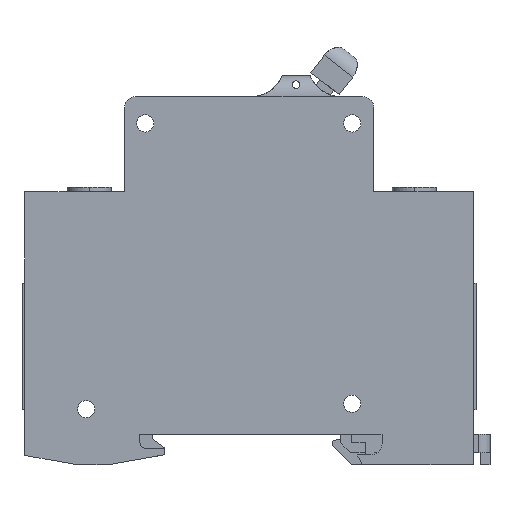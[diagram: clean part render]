
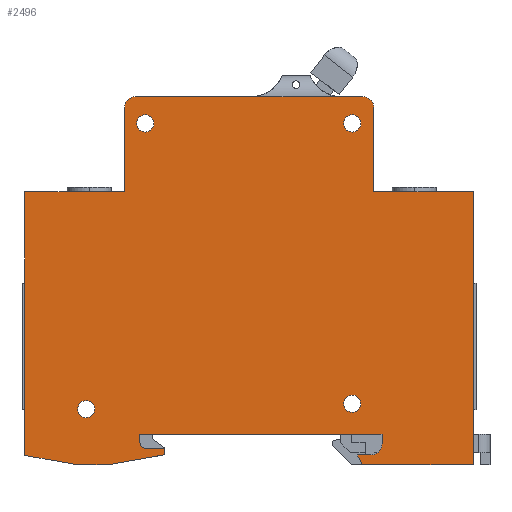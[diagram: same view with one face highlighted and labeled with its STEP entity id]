
A CAD part, left-side view. The second image highlights one B-rep face of the part: STEP entity #2496.
In plain terms, the highlighted planar face has unit normal (-1, 0, 0).
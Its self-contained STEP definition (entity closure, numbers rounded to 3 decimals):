
#13=DIRECTION('',(0.,1.,0.));
#14=VECTOR('',#13,43.7);
#15=CARTESIAN_POINT('',(-8.925,-24.,-27.75));
#16=LINE('',#15,#14);
#17=DIRECTION('',(0.,0.,-1.));
#18=VECTOR('',#17,1.5);
#19=CARTESIAN_POINT('',(-8.925,19.7,-27.75));
#20=LINE('',#19,#18);
#21=CARTESIAN_POINT('',(-8.925,18.7,-29.25));
#22=DIRECTION('',(-1.,0.,0.));
#23=DIRECTION('',(0.,1.,0.));
#24=AXIS2_PLACEMENT_3D('',#21,#22,#23);
#26=DIRECTION('',(0.,-1.,0.));
#27=VECTOR('',#26,3.5);
#28=CARTESIAN_POINT('',(-8.925,18.7,-30.25));
#29=LINE('',#28,#27);
#30=DIRECTION('',(0.,0.985,-0.174));
#31=VECTOR('',#30,10.56);
#32=CARTESIAN_POINT('',(-8.925,15.2,-31.416));
#33=LINE('',#32,#31);
#34=DIRECTION('',(0.,0.985,0.174));
#35=VECTOR('',#34,9.85);
#36=CARTESIAN_POINT('',(-8.925,30.8,-33.25));
#37=LINE('',#36,#35);
#38=CARTESIAN_POINT('',(-8.925,20.5,31.25));
#39=DIRECTION('',(1.,0.,0.));
#40=DIRECTION('',(0.,1.,0.));
#41=AXIS2_PLACEMENT_3D('',#38,#39,#40);
#43=CARTESIAN_POINT('',(-8.925,-20.5,31.25));
#44=DIRECTION('',(1.,0.,0.));
#45=DIRECTION('',(0.,0.,1.));
#46=AXIS2_PLACEMENT_3D('',#43,#44,#45);
#48=DIRECTION('',(0.,0.447,0.894));
#49=VECTOR('',#48,2.013);
#50=CARTESIAN_POINT('',(-8.925,-20.46,-33.25));
#51=LINE('',#50,#49);
#52=DIRECTION('',(0.,-1.,0.));
#53=VECTOR('',#52,2.44);
#54=CARTESIAN_POINT('',(-8.925,-19.56,-31.45));
#55=LINE('',#54,#53);
#56=CARTESIAN_POINT('',(-8.925,-22.,-29.45));
#57=DIRECTION('',(-1.,0.,0.));
#58=DIRECTION('',(0.,0.,-1.));
#59=AXIS2_PLACEMENT_3D('',#56,#57,#58);
#61=DIRECTION('',(0.,0.,1.));
#62=VECTOR('',#61,1.7);
#63=CARTESIAN_POINT('',(-8.925,-24.,-29.45));
#64=LINE('',#63,#62);
#65=CARTESIAN_POINT('',(-8.925,29.396,-23.187));
#66=DIRECTION('',(-1.,0.,0.));
#67=DIRECTION('',(0.,-1.,0.));
#68=AXIS2_PLACEMENT_3D('',#65,#66,#67);
#70=CARTESIAN_POINT('',(-8.925,29.396,-23.187));
#71=DIRECTION('',(-1.,0.,0.));
#72=DIRECTION('',(0.,1.,0.));
#73=AXIS2_PLACEMENT_3D('',#70,#71,#72);
#75=CARTESIAN_POINT('',(-8.925,-18.62,-22.194));
#76=DIRECTION('',(-1.,0.,0.));
#77=DIRECTION('',(0.,-1.,0.));
#78=AXIS2_PLACEMENT_3D('',#75,#76,#77);
#80=CARTESIAN_POINT('',(-8.925,-18.62,-22.194));
#81=DIRECTION('',(-1.,0.,0.));
#82=DIRECTION('',(0.,1.,0.));
#83=AXIS2_PLACEMENT_3D('',#80,#81,#82);
#85=CARTESIAN_POINT('',(-8.925,-18.62,28.401));
#86=DIRECTION('',(-1.,0.,0.));
#87=DIRECTION('',(0.,-1.,0.));
#88=AXIS2_PLACEMENT_3D('',#85,#86,#87);
#90=CARTESIAN_POINT('',(-8.925,-18.62,28.401));
#91=DIRECTION('',(-1.,0.,0.));
#92=DIRECTION('',(0.,1.,0.));
#93=AXIS2_PLACEMENT_3D('',#90,#91,#92);
#95=CARTESIAN_POINT('',(-8.925,18.741,28.401));
#96=DIRECTION('',(-1.,0.,0.));
#97=DIRECTION('',(0.,-1.,0.));
#98=AXIS2_PLACEMENT_3D('',#95,#96,#97);
#100=CARTESIAN_POINT('',(-8.925,18.741,28.401));
#101=DIRECTION('',(-1.,0.,0.));
#102=DIRECTION('',(0.,1.,0.));
#103=AXIS2_PLACEMENT_3D('',#100,#101,#102);
#226=DIRECTION('',(0.,0.,1.));
#227=VECTOR('',#226,1.166);
#228=CARTESIAN_POINT('',(-8.925,15.2,-31.416));
#229=LINE('',#228,#227);
#465=DIRECTION('',(0.,1.,0.));
#466=VECTOR('',#465,4.005);
#467=CARTESIAN_POINT('',(-8.925,-20.5,33.25));
#468=LINE('',#467,#466);
#481=DIRECTION('',(0.,0.,1.));
#482=VECTOR('',#481,15.2);
#483=CARTESIAN_POINT('',(-8.925,-22.5,16.05));
#484=LINE('',#483,#482);
#489=DIRECTION('',(0.,1.,0.));
#490=VECTOR('',#489,18.);
#491=CARTESIAN_POINT('',(-8.925,-40.5,16.05));
#492=LINE('',#491,#490);
#519=DIRECTION('',(0.,0.,1.));
#520=VECTOR('',#519,49.3);
#521=CARTESIAN_POINT('',(-8.925,-40.5,-33.25));
#522=LINE('',#521,#520);
#684=DIRECTION('',(0.,-1.,0.));
#685=VECTOR('',#684,20.04);
#686=CARTESIAN_POINT('',(-8.925,-20.46,-33.25));
#687=LINE('',#686,#685);
#1193=DIRECTION('',(0.,1.,0.));
#1194=VECTOR('',#1193,16.008);
#1195=CARTESIAN_POINT('',(-8.925,-16.495,33.25));
#1196=LINE('',#1195,#1194);
#1235=DIRECTION('',(0.,1.,0.));
#1236=VECTOR('',#1235,20.987);
#1237=CARTESIAN_POINT('',(-8.925,-0.487,33.25));
#1238=LINE('',#1237,#1236);
#1514=DIRECTION('',(0.,0.,-1.));
#1515=VECTOR('',#1514,15.2);
#1516=CARTESIAN_POINT('',(-8.925,22.5,31.25));
#1517=LINE('',#1516,#1515);
#1518=DIRECTION('',(0.,1.,0.));
#1519=VECTOR('',#1518,18.);
#1520=CARTESIAN_POINT('',(-8.925,22.5,16.05));
#1521=LINE('',#1520,#1519);
#1536=DIRECTION('',(0.,0.,-1.));
#1537=VECTOR('',#1536,47.59);
#1538=CARTESIAN_POINT('',(-8.925,40.5,16.05));
#1539=LINE('',#1538,#1537);
#1548=DIRECTION('',(0.,-1.,0.));
#1549=VECTOR('',#1548,5.2);
#1550=CARTESIAN_POINT('',(-8.925,30.8,-33.25));
#1551=LINE('',#1550,#1549);
#1874=CARTESIAN_POINT('',(-8.925,-24.,-27.75));
#1875=CARTESIAN_POINT('',(-8.925,19.7,-27.75));
#1876=VERTEX_POINT('',#1874);
#1877=VERTEX_POINT('',#1875);
#1878=CARTESIAN_POINT('',(-8.925,19.7,-29.25));
#1879=VERTEX_POINT('',#1878);
#1880=CARTESIAN_POINT('',(-8.925,18.7,-30.25));
#1881=VERTEX_POINT('',#1880);
#1882=CARTESIAN_POINT('',(-8.925,15.2,-30.25));
#1883=VERTEX_POINT('',#1882);
#1884=CARTESIAN_POINT('',(-8.925,15.2,-31.416));
#1885=VERTEX_POINT('',#1884);
#1886=CARTESIAN_POINT('',(-8.925,25.6,-33.25));
#1887=VERTEX_POINT('',#1886);
#1888=CARTESIAN_POINT('',(-8.925,30.8,-33.25));
#1889=VERTEX_POINT('',#1888);
#1890=CARTESIAN_POINT('',(-8.925,40.5,-31.54));
#1891=VERTEX_POINT('',#1890);
#1892=CARTESIAN_POINT('',(-8.925,40.5,16.05));
#1893=VERTEX_POINT('',#1892);
#1894=CARTESIAN_POINT('',(-8.925,22.5,16.05));
#1895=VERTEX_POINT('',#1894);
#1896=CARTESIAN_POINT('',(-8.925,22.5,31.25));
#1897=VERTEX_POINT('',#1896);
#1898=CARTESIAN_POINT('',(-8.925,20.5,33.25));
#1899=VERTEX_POINT('',#1898);
#1900=CARTESIAN_POINT('',(-8.925,-0.487,33.25));
#1901=VERTEX_POINT('',#1900);
#1902=CARTESIAN_POINT('',(-8.925,-16.495,33.25));
#1903=VERTEX_POINT('',#1902);
#1904=CARTESIAN_POINT('',(-8.925,-20.5,33.25));
#1905=VERTEX_POINT('',#1904);
#1906=CARTESIAN_POINT('',(-8.925,-22.5,31.25));
#1907=VERTEX_POINT('',#1906);
#1908=CARTESIAN_POINT('',(-8.925,-22.5,16.05));
#1909=VERTEX_POINT('',#1908);
#1910=CARTESIAN_POINT('',(-8.925,-40.5,16.05));
#1911=VERTEX_POINT('',#1910);
#1912=CARTESIAN_POINT('',(-8.925,-40.5,-33.25));
#1913=VERTEX_POINT('',#1912);
#1914=CARTESIAN_POINT('',(-8.925,-20.46,-33.25));
#1915=VERTEX_POINT('',#1914);
#1916=CARTESIAN_POINT('',(-8.925,-19.56,-31.45));
#1917=VERTEX_POINT('',#1916);
#1918=CARTESIAN_POINT('',(-8.925,-22.,-31.45));
#1919=VERTEX_POINT('',#1918);
#1920=CARTESIAN_POINT('',(-8.925,-24.,-29.45));
#1921=VERTEX_POINT('',#1920);
#1922=CARTESIAN_POINT('',(-8.925,27.846,-23.187));
#1923=CARTESIAN_POINT('',(-8.925,30.946,-23.187));
#1924=VERTEX_POINT('',#1922);
#1925=VERTEX_POINT('',#1923);
#1926=CARTESIAN_POINT('',(-8.925,-20.17,-22.194));
#1927=CARTESIAN_POINT('',(-8.925,-17.07,-22.194));
#1928=VERTEX_POINT('',#1926);
#1929=VERTEX_POINT('',#1927);
#1930=CARTESIAN_POINT('',(-8.925,-20.17,28.401));
#1931=CARTESIAN_POINT('',(-8.925,-17.07,28.401));
#1932=VERTEX_POINT('',#1930);
#1933=VERTEX_POINT('',#1931);
#1934=CARTESIAN_POINT('',(-8.925,17.191,28.401));
#1935=CARTESIAN_POINT('',(-8.925,20.291,28.401));
#1936=VERTEX_POINT('',#1934);
#1937=VERTEX_POINT('',#1935);
#2417=CARTESIAN_POINT('',(-8.925,0.,0.));
#2418=DIRECTION('',(1.,0.,0.));
#2419=DIRECTION('',(0.,0.,-1.));
#2420=AXIS2_PLACEMENT_3D('',#2417,#2418,#2419);
#2421=PLANE('',#2420);
#2423=ORIENTED_EDGE('',*,*,#2422,.T.);
#2425=ORIENTED_EDGE('',*,*,#2424,.T.);
#2427=ORIENTED_EDGE('',*,*,#2426,.T.);
#2429=ORIENTED_EDGE('',*,*,#2428,.T.);
#2431=ORIENTED_EDGE('',*,*,#2430,.F.);
#2433=ORIENTED_EDGE('',*,*,#2432,.T.);
#2435=ORIENTED_EDGE('',*,*,#2434,.F.);
#2437=ORIENTED_EDGE('',*,*,#2436,.T.);
#2439=ORIENTED_EDGE('',*,*,#2438,.F.);
#2441=ORIENTED_EDGE('',*,*,#2440,.F.);
#2443=ORIENTED_EDGE('',*,*,#2442,.F.);
#2445=ORIENTED_EDGE('',*,*,#2444,.T.);
#2447=ORIENTED_EDGE('',*,*,#2446,.F.);
#2449=ORIENTED_EDGE('',*,*,#2448,.F.);
#2451=ORIENTED_EDGE('',*,*,#2450,.F.);
#2453=ORIENTED_EDGE('',*,*,#2452,.T.);
#2455=ORIENTED_EDGE('',*,*,#2454,.F.);
#2457=ORIENTED_EDGE('',*,*,#2456,.F.);
#2459=ORIENTED_EDGE('',*,*,#2458,.F.);
#2461=ORIENTED_EDGE('',*,*,#2460,.F.);
#2463=ORIENTED_EDGE('',*,*,#2462,.T.);
#2465=ORIENTED_EDGE('',*,*,#2464,.T.);
#2467=ORIENTED_EDGE('',*,*,#2466,.T.);
#2469=ORIENTED_EDGE('',*,*,#2468,.T.);
#2470=EDGE_LOOP('',(#2423,#2425,#2427,#2429,#2431,#2433,#2435,#2437,#2439,#2441,
#2443,#2445,#2447,#2449,#2451,#2453,#2455,#2457,#2459,#2461,#2463,#2465,#2467,
#2469));
#2471=FACE_OUTER_BOUND('',#2470,.F.);
#2473=ORIENTED_EDGE('',*,*,#2472,.T.);
#2475=ORIENTED_EDGE('',*,*,#2474,.T.);
#2476=EDGE_LOOP('',(#2473,#2475));
#2477=FACE_BOUND('',#2476,.F.);
#2479=ORIENTED_EDGE('',*,*,#2478,.T.);
#2481=ORIENTED_EDGE('',*,*,#2480,.T.);
#2482=EDGE_LOOP('',(#2479,#2481));
#2483=FACE_BOUND('',#2482,.F.);
#2485=ORIENTED_EDGE('',*,*,#2484,.T.);
#2487=ORIENTED_EDGE('',*,*,#2486,.T.);
#2488=EDGE_LOOP('',(#2485,#2487));
#2489=FACE_BOUND('',#2488,.F.);
#2491=ORIENTED_EDGE('',*,*,#2490,.T.);
#2493=ORIENTED_EDGE('',*,*,#2492,.T.);
#2494=EDGE_LOOP('',(#2491,#2493));
#2495=FACE_BOUND('',#2494,.F.);
#2496=ADVANCED_FACE('',(#2471,#2477,#2483,#2489,#2495),#2421,.F.);
#25=CIRCLE('',#24,1.);
#42=CIRCLE('',#41,2.);
#47=CIRCLE('',#46,2.);
#60=CIRCLE('',#59,2.);
#69=CIRCLE('',#68,1.55);
#74=CIRCLE('',#73,1.55);
#79=CIRCLE('',#78,1.55);
#84=CIRCLE('',#83,1.55);
#89=CIRCLE('',#88,1.55);
#94=CIRCLE('',#93,1.55);
#99=CIRCLE('',#98,1.55);
#104=CIRCLE('',#103,1.55);
#2422=EDGE_CURVE('',#1876,#1877,#16,.T.);
#2424=EDGE_CURVE('',#1877,#1879,#20,.T.);
#2426=EDGE_CURVE('',#1879,#1881,#25,.T.);
#2428=EDGE_CURVE('',#1881,#1883,#29,.T.);
#2430=EDGE_CURVE('',#1885,#1883,#229,.T.);
#2432=EDGE_CURVE('',#1885,#1887,#33,.T.);
#2434=EDGE_CURVE('',#1889,#1887,#1551,.T.);
#2436=EDGE_CURVE('',#1889,#1891,#37,.T.);
#2438=EDGE_CURVE('',#1893,#1891,#1539,.T.);
#2440=EDGE_CURVE('',#1895,#1893,#1521,.T.);
#2442=EDGE_CURVE('',#1897,#1895,#1517,.T.);
#2444=EDGE_CURVE('',#1897,#1899,#42,.T.);
#2446=EDGE_CURVE('',#1901,#1899,#1238,.T.);
#2448=EDGE_CURVE('',#1903,#1901,#1196,.T.);
#2450=EDGE_CURVE('',#1905,#1903,#468,.T.);
#2452=EDGE_CURVE('',#1905,#1907,#47,.T.);
#2454=EDGE_CURVE('',#1909,#1907,#484,.T.);
#2456=EDGE_CURVE('',#1911,#1909,#492,.T.);
#2458=EDGE_CURVE('',#1913,#1911,#522,.T.);
#2460=EDGE_CURVE('',#1915,#1913,#687,.T.);
#2462=EDGE_CURVE('',#1915,#1917,#51,.T.);
#2464=EDGE_CURVE('',#1917,#1919,#55,.T.);
#2466=EDGE_CURVE('',#1919,#1921,#60,.T.);
#2468=EDGE_CURVE('',#1921,#1876,#64,.T.);
#2472=EDGE_CURVE('',#1924,#1925,#69,.T.);
#2474=EDGE_CURVE('',#1925,#1924,#74,.T.);
#2478=EDGE_CURVE('',#1928,#1929,#79,.T.);
#2480=EDGE_CURVE('',#1929,#1928,#84,.T.);
#2484=EDGE_CURVE('',#1932,#1933,#89,.T.);
#2486=EDGE_CURVE('',#1933,#1932,#94,.T.);
#2490=EDGE_CURVE('',#1936,#1937,#99,.T.);
#2492=EDGE_CURVE('',#1937,#1936,#104,.T.);
